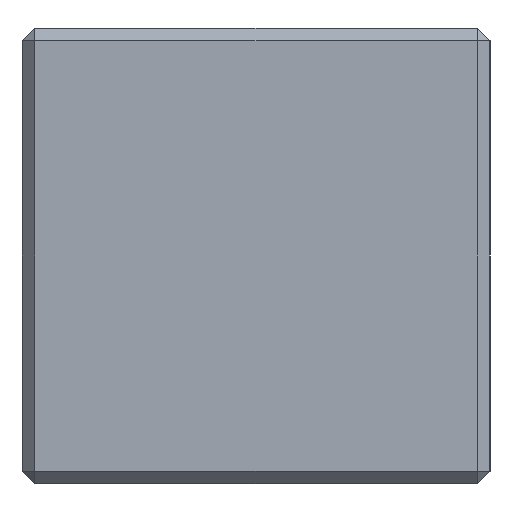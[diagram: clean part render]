
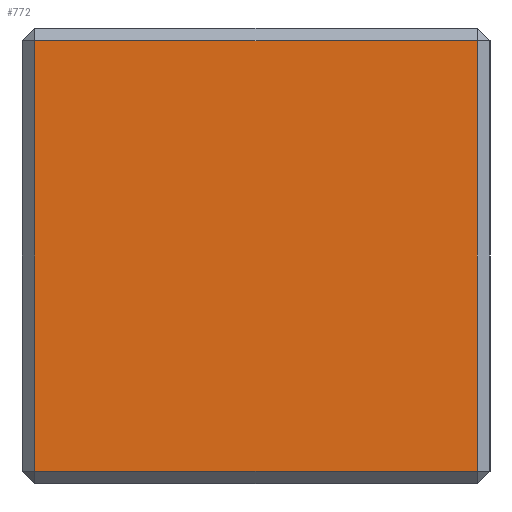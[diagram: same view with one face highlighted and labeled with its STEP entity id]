
A CAD part, left-side view. The second image highlights one B-rep face of the part: STEP entity #772.
In plain terms, the highlighted planar face has unit normal (-1, 0, 0).
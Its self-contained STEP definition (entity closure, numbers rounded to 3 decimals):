
#346 = VERTEX_POINT ( 'NONE', #1447 ) ;
#418 = ORIENTED_EDGE ( 'NONE', *, *, #426, .T. ) ;
#426 = EDGE_CURVE ( 'NONE', #346, #767, #1616, .T. ) ;
#499 = ORIENTED_EDGE ( 'NONE', *, *, #501, .T. ) ;
#501 = EDGE_CURVE ( 'NONE', #760, #346, #1690, .T. ) ;
#758 = EDGE_CURVE ( 'NONE', #765, #760, #2072, .T. ) ;
#760 = VERTEX_POINT ( 'NONE', #2063 ) ;
#761 = ORIENTED_EDGE ( 'NONE', *, *, #758, .T. ) ;
#762 = EDGE_CURVE ( 'NONE', #767, #765, #2061, .T. ) ;
#764 = ORIENTED_EDGE ( 'NONE', *, *, #762, .T. ) ;
#765 = VERTEX_POINT ( 'NONE', #2119 ) ;
#767 = VERTEX_POINT ( 'NONE', #2114 ) ;
#769 = EDGE_LOOP ( 'NONE', ( #418, #764, #761, #499 ) ) ;
#772 = ADVANCED_FACE ( 'NONE', ( #2109 ), #2104, .F. ) ;
#1447 = CARTESIAN_POINT ( 'NONE',  ( -30., 20.5, -17. ) ) ;
#1613 = DIRECTION ( 'NONE',  ( 0., -1., 0. ) ) ;
#1614 = VECTOR ( 'NONE', #1613, 1000. ) ;
#1615 = CARTESIAN_POINT ( 'NONE',  ( -30., 21.5, -17. ) ) ;
#1616 = LINE ( 'NONE', #1615, #1614 ) ;
#1684 = DIRECTION ( 'NONE',  ( 0., 0., -1. ) ) ;
#1685 = VECTOR ( 'NONE', #1684, 1000. ) ;
#1686 = CARTESIAN_POINT ( 'NONE',  ( -30., 20.5, 18. ) ) ;
#1690 = LINE ( 'NONE', #1686, #1685 ) ;
#2058 = DIRECTION ( 'NONE',  ( 0., 0., 1. ) ) ;
#2059 = VECTOR ( 'NONE', #2058, 1000. ) ;
#2060 = CARTESIAN_POINT ( 'NONE',  ( -30., -14.5, 18. ) ) ;
#2061 = LINE ( 'NONE', #2060, #2059 ) ;
#2063 = CARTESIAN_POINT ( 'NONE',  ( -30., 20.5, 17. ) ) ;
#2069 = DIRECTION ( 'NONE',  ( 0., 1., 0. ) ) ;
#2070 = VECTOR ( 'NONE', #2069, 1000. ) ;
#2071 = CARTESIAN_POINT ( 'NONE',  ( -30., 21.5, 17. ) ) ;
#2072 = LINE ( 'NONE', #2071, #2070 ) ;
#2099 = DIRECTION ( 'NONE',  ( 0., 1., 0. ) ) ;
#2100 = DIRECTION ( 'NONE',  ( 1., 0., 0. ) ) ;
#2101 = AXIS2_PLACEMENT_3D ( 'NONE', #2103, #2100, #2099 ) ;
#2103 = CARTESIAN_POINT ( 'NONE',  ( -30., 21.5, 18. ) ) ;
#2104 = PLANE ( 'NONE',  #2101 ) ;
#2109 = FACE_OUTER_BOUND ( 'NONE', #769, .T. ) ;
#2114 = CARTESIAN_POINT ( 'NONE',  ( -30., -14.5, -17. ) ) ;
#2119 = CARTESIAN_POINT ( 'NONE',  ( -30., -14.5, 17. ) ) ;
